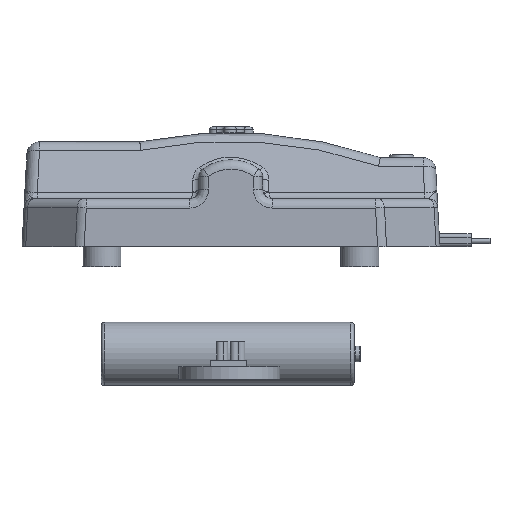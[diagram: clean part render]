
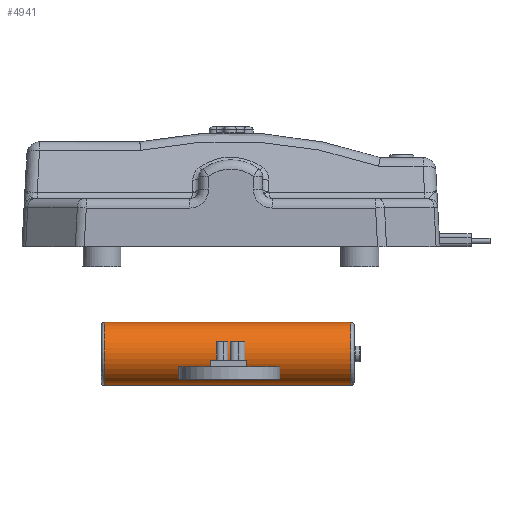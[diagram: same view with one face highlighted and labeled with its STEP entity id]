
A CAD part, left-side view. The second image highlights one B-rep face of the part: STEP entity #4941.
In plain terms, the highlighted cylindrical face has radius 5 mm (diameter 10 mm), a full revolution.
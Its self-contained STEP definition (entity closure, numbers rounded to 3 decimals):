
#565=FACE_BOUND('',#6549,.T.);
#566=FACE_BOUND('',#6550,.T.);
#2921=CIRCLE('',#14162,5.);
#2922=CIRCLE('',#14163,5.);
#4941=ADVANCED_FACE('',(#565,#566),#5654,.T.);
#5654=CYLINDRICAL_SURFACE('',#14164,5.);
#6549=EDGE_LOOP('',(#7464));
#6550=EDGE_LOOP('',(#7465));
#7464=ORIENTED_EDGE('',*,*,#11961,.T.);
#7465=ORIENTED_EDGE('',*,*,#11962,.T.);
#10844=VERTEX_POINT('',#19519);
#10845=VERTEX_POINT('',#19521);
#11961=EDGE_CURVE('',#10844,#10844,#2921,.T.);
#11962=EDGE_CURVE('',#10845,#10845,#2922,.T.);
#14162=AXIS2_PLACEMENT_3D('',#19518,#15263,#15264);
#14163=AXIS2_PLACEMENT_3D('',#19520,#15265,#15266);
#14164=AXIS2_PLACEMENT_3D('',#19522,#15267,#15268);
#15263=DIRECTION('',(0.,-1.,0.));
#15264=DIRECTION('',(-1.,0.,0.022));
#15265=DIRECTION('',(0.,1.,0.));
#15266=DIRECTION('',(-1.,0.,0.022));
#15267=DIRECTION('',(0.,-1.,0.));
#15268=DIRECTION('',(-1.,0.,0.022));
#19518=CARTESIAN_POINT('',(17.685,20.,-16.561));
#19519=CARTESIAN_POINT('',(12.686,20.,-16.451));
#19520=CARTESIAN_POINT('',(17.685,-19.,-16.561));
#19521=CARTESIAN_POINT('',(12.686,-19.,-16.451));
#19522=CARTESIAN_POINT('',(17.685,20.5,-16.561));
